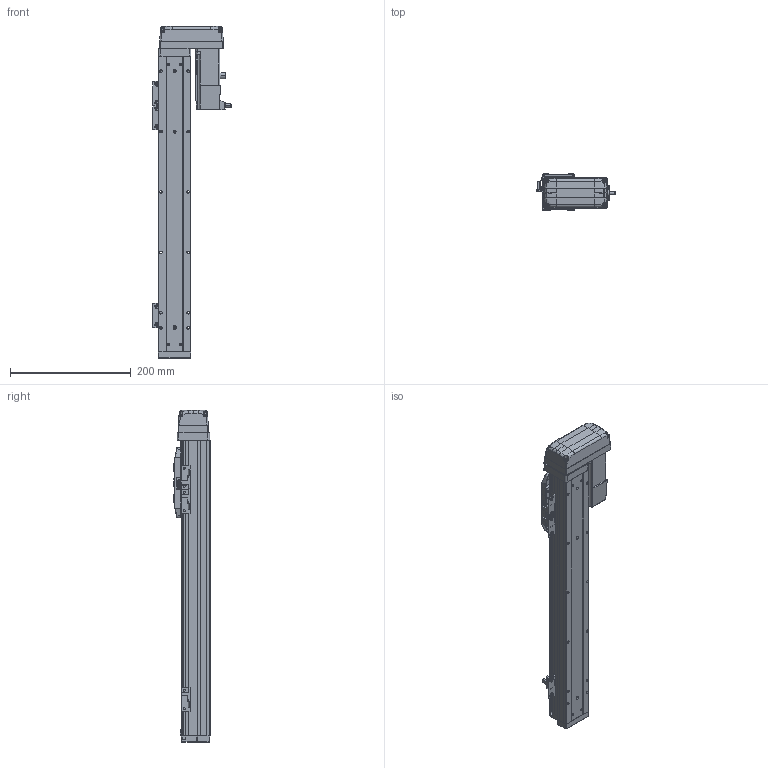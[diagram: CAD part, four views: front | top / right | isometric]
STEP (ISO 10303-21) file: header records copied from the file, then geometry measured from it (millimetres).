
FILE_DESCRIPTION (( 'STEP AP203' ), '1' );
FILE_NAME ('7.STEP', '2021-01-04T05:43:56', ( '' ), ( '' ), 'SwSTEP 2.0', 'SolidWorks 2016', '' );
FILE_SCHEMA (( 'CONFIG_CONTROL_DESIGN' ));
Length unit declared in the file: millimetre
Products named in the file (10): CTH5-BL-菁釱; CTH5-BL-HZ; 7; PM-Y45; CTH5-BL-01; CTH5-BL-05; CTH5-BL-02; CTH5-BL-07; CTH5-BL-T10; CTH5-BL-03
Assembly tree (14 placements, depth 2):
  7
    CTH5-BL-菁釱
    CTH5-BL-01
    CTH5-BL-02
    CTH5-BL-03
    CTH5-BL-05  x2
    CTH5-BL-07  x3
    CTH5-BL-HZ
    CTH5-BL-T10
    PM-Y45  x3
Bounding box: 129.75 x 60 x 549.9 mm (x, y, z)
Volume: 1306257 mm3; surface area: 264108.2 mm2
Topology: 30 solids, 30 shells, 1526 faces, 4077 edges, 2586 vertices
Faces by surface type: plane 699, cylinder 577, cone 152, bspline 70, torus 24, sphere 4
Entity records: 46709 total; most frequent: CARTESIAN_POINT 13503, ORIENTED_EDGE 6838, DIRECTION 6466, EDGE_CURVE 3419, AXIS2_PLACEMENT_3D 2287, VERTEX_POINT 2186, VECTOR 1892, LINE 1892
